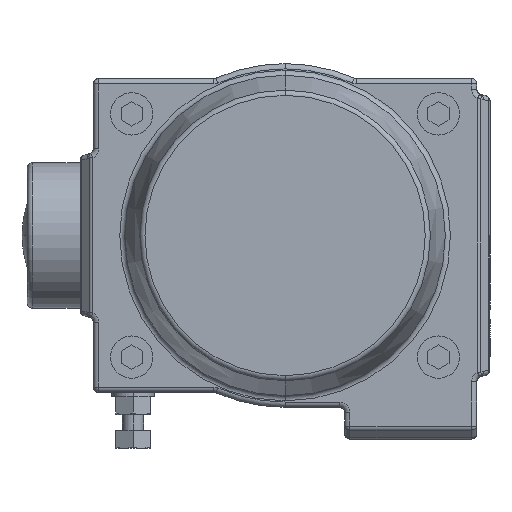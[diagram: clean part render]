
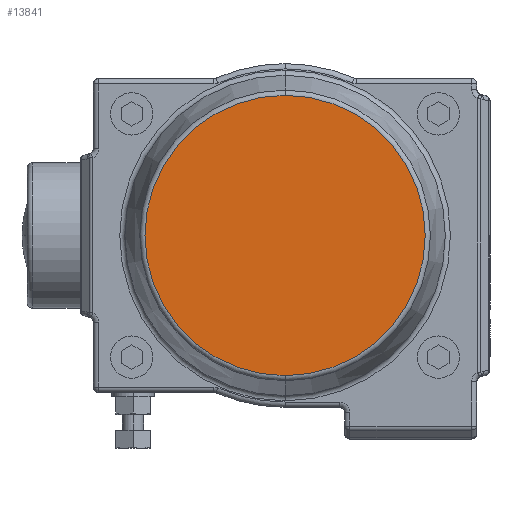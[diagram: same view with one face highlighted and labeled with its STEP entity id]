
A CAD part, left-side view. The second image highlights one B-rep face of the part: STEP entity #13841.
In plain terms, the highlighted planar face has unit normal (-1, 0, 0).
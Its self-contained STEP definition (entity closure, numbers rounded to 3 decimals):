
#60 = FACE_OUTER_BOUND ( 'NONE', #5346, .T. ) ;
#591 = CARTESIAN_POINT ( 'NONE',  ( -150.5, 0., 0. ) ) ;
#737 = EDGE_CURVE ( 'NONE', #12333, #14962, #2149, .T. ) ;
#2085 = CARTESIAN_POINT ( 'NONE',  ( -150.5, 0., -53.013 ) ) ;
#2149 = CIRCLE ( 'NONE', #7674, 53.013 ) ;
#2352 = DIRECTION ( 'NONE',  ( -1., 0., 0. ) ) ;
#3719 = DIRECTION ( 'NONE',  ( 0., 0., 1. ) ) ;
#4131 = CARTESIAN_POINT ( 'NONE',  ( -150.5, 0., 0. ) ) ;
#5346 = EDGE_LOOP ( 'NONE', ( #8493, #6972 ) ) ;
#5432 = DIRECTION ( 'NONE',  ( 0., 0., 1. ) ) ;
#6248 = AXIS2_PLACEMENT_3D ( 'NONE', #591, #12807, #9361 ) ;
#6972 = ORIENTED_EDGE ( 'NONE', *, *, #10201, .T. ) ;
#7674 = AXIS2_PLACEMENT_3D ( 'NONE', #15844, #2352, #3719 ) ;
#8493 = ORIENTED_EDGE ( 'NONE', *, *, #737, .T. ) ;
#8745 = PLANE ( 'NONE',  #11330 ) ;
#9361 = DIRECTION ( 'NONE',  ( 0., 0., 1. ) ) ;
#10106 = CARTESIAN_POINT ( 'NONE',  ( -150.5, 0., 53.013 ) ) ;
#10201 = EDGE_CURVE ( 'NONE', #14962, #12333, #13227, .T. ) ;
#11330 = AXIS2_PLACEMENT_3D ( 'NONE', #4131, #12727, #5432 ) ;
#12333 = VERTEX_POINT ( 'NONE', #10106 ) ;
#12727 = DIRECTION ( 'NONE',  ( -1., 0., 0. ) ) ;
#12807 = DIRECTION ( 'NONE',  ( -1., 0., 0. ) ) ;
#13227 = CIRCLE ( 'NONE', #6248, 53.013 ) ;
#13841 = ADVANCED_FACE ( 'NONE', ( #60 ), #8745, .T. ) ;
#14962 = VERTEX_POINT ( 'NONE', #2085 ) ;
#15844 = CARTESIAN_POINT ( 'NONE',  ( -150.5, 0., 0. ) ) ;
